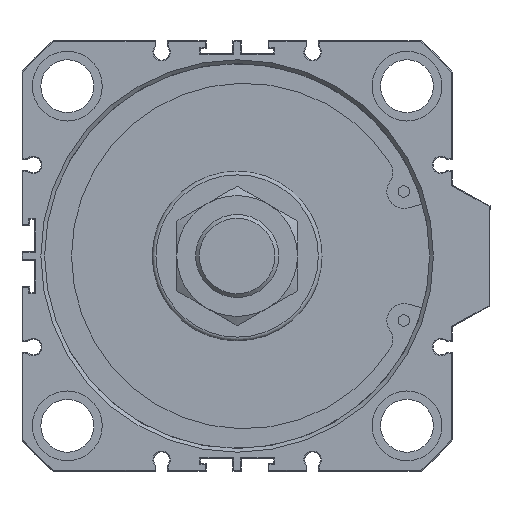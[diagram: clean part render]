
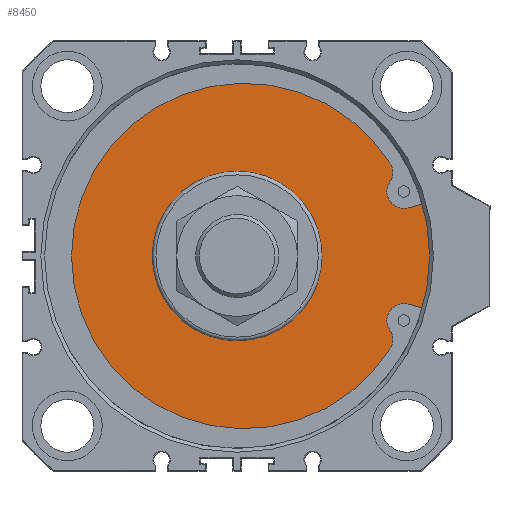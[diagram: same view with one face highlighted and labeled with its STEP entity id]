
A CAD part, front view. The second image highlights one B-rep face of the part: STEP entity #8450.
In plain terms, the highlighted planar face has unit normal (0, -1, 0).
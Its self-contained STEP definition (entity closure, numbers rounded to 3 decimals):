
#593=LINE('',#12081,#1179);
#594=LINE('',#12093,#1180);
#1179=VECTOR('',#10202,1000.);
#1180=VECTOR('',#10213,1000.);
#2037=ORIENTED_EDGE('',*,*,#3525,.T.);
#2038=ORIENTED_EDGE('',*,*,#3526,.T.);
#2039=ORIENTED_EDGE('',*,*,#3527,.T.);
#2040=ORIENTED_EDGE('',*,*,#3528,.T.);
#2041=ORIENTED_EDGE('',*,*,#3529,.T.);
#2042=ORIENTED_EDGE('',*,*,#3530,.T.);
#2043=ORIENTED_EDGE('',*,*,#3531,.T.);
#2044=ORIENTED_EDGE('',*,*,#3523,.F.);
#2045=ORIENTED_EDGE('',*,*,#3532,.F.);
#3523=EDGE_CURVE('',#4231,#4232,#4425,.T.);
#3525=EDGE_CURVE('',#4231,#4233,#593,.T.);
#3526=EDGE_CURVE('',#4233,#4234,#4426,.T.);
#3527=EDGE_CURVE('',#4234,#4235,#4427,.T.);
#3528=EDGE_CURVE('',#4235,#4236,#4428,.T.);
#3529=EDGE_CURVE('',#4236,#4237,#4429,.T.);
#3530=EDGE_CURVE('',#4237,#4238,#4430,.T.);
#3531=EDGE_CURVE('',#4238,#4232,#594,.T.);
#3532=EDGE_CURVE('',#4239,#4239,#4431,.T.);
#4231=VERTEX_POINT('',#12076);
#4232=VERTEX_POINT('',#12078);
#4233=VERTEX_POINT('',#12082);
#4234=VERTEX_POINT('',#12084);
#4235=VERTEX_POINT('',#12086);
#4236=VERTEX_POINT('',#12088);
#4237=VERTEX_POINT('',#12090);
#4238=VERTEX_POINT('',#12092);
#4239=VERTEX_POINT('',#12095);
#4425=CIRCLE('',#8977,53.);
#4426=CIRCLE('',#8979,4.5);
#4427=CIRCLE('',#8980,4.5);
#4428=CIRCLE('',#8981,45.77);
#4429=CIRCLE('',#8982,4.5);
#4430=CIRCLE('',#8983,4.5);
#4431=CIRCLE('',#8984,22.5);
#4642=EDGE_LOOP('',(#2037,#2038,#2039,#2040,#2041,#2042,#2043,#2044));
#4643=EDGE_LOOP('',(#2045));
#5088=FACE_BOUND('',#4642,.T.);
#5089=FACE_BOUND('',#4643,.T.);
#5446=PLANE('',#8978);
#8450=ADVANCED_FACE('',(#5088,#5089),#5446,.T.);
#8977=AXIS2_PLACEMENT_3D('',#12077,#10197,#10198);
#8978=AXIS2_PLACEMENT_3D('',#12080,#10200,#10201);
#8979=AXIS2_PLACEMENT_3D('',#12083,#10203,#10204);
#8980=AXIS2_PLACEMENT_3D('',#12085,#10205,#10206);
#8981=AXIS2_PLACEMENT_3D('',#12087,#10207,#10208);
#8982=AXIS2_PLACEMENT_3D('',#12089,#10209,#10210);
#8983=AXIS2_PLACEMENT_3D('',#12091,#10211,#10212);
#8984=AXIS2_PLACEMENT_3D('',#12094,#10214,#10215);
#10197=DIRECTION('',(0.,1.,0.));
#10198=DIRECTION('',(-1.,0.,0.));
#10200=DIRECTION('',(0.,-1.,0.));
#10201=DIRECTION('',(1.,0.,0.));
#10202=DIRECTION('',(-0.966,0.,-0.259));
#10203=DIRECTION('',(0.,1.,0.));
#10204=DIRECTION('',(1.,0.,0.));
#10205=DIRECTION('',(0.,-1.,0.));
#10206=DIRECTION('',(-1.,0.,0.));
#10207=DIRECTION('',(0.,-1.,0.));
#10208=DIRECTION('',(1.,0.,0.));
#10209=DIRECTION('',(0.,-1.,0.));
#10210=DIRECTION('',(-1.,0.,0.));
#10211=DIRECTION('',(0.,1.,0.));
#10212=DIRECTION('',(1.,0.,0.));
#10213=DIRECTION('',(0.966,0.,-0.259));
#10214=DIRECTION('',(0.,-1.,0.));
#10215=DIRECTION('',(1.,0.,0.));
#12076=CARTESIAN_POINT('',(51.039,8.,14.283));
#12077=CARTESIAN_POINT('',(0.,8.,0.));
#12078=CARTESIAN_POINT('',(51.039,8.,-14.283));
#12080=CARTESIAN_POINT('',(0.,8.,-53.));
#12081=CARTESIAN_POINT('',(51.039,8.,14.283));
#12082=CARTESIAN_POINT('',(45.35,8.,12.758));
#12083=CARTESIAN_POINT('',(44.185,8.,17.105));
#12084=CARTESIAN_POINT('',(40.45,8.,19.615));
#12085=CARTESIAN_POINT('',(36.73,8.,22.147));
#12086=CARTESIAN_POINT('',(40.642,8.,24.372));
#12087=CARTESIAN_POINT('',(1.9,8.,0.));
#12088=CARTESIAN_POINT('',(40.642,8.,-24.372));
#12089=CARTESIAN_POINT('',(36.73,8.,-22.147));
#12090=CARTESIAN_POINT('',(40.45,8.,-19.615));
#12091=CARTESIAN_POINT('',(44.185,8.,-17.105));
#12092=CARTESIAN_POINT('',(45.35,8.,-12.758));
#12093=CARTESIAN_POINT('',(45.35,8.,-12.758));
#12094=CARTESIAN_POINT('',(0.,8.,0.));
#12095=CARTESIAN_POINT('',(22.5,8.,0.));
